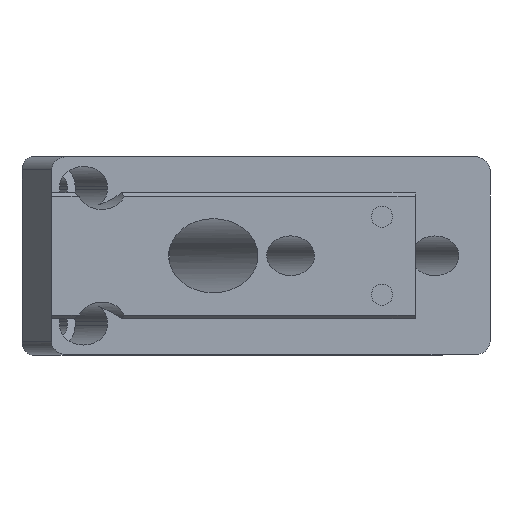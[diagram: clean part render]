
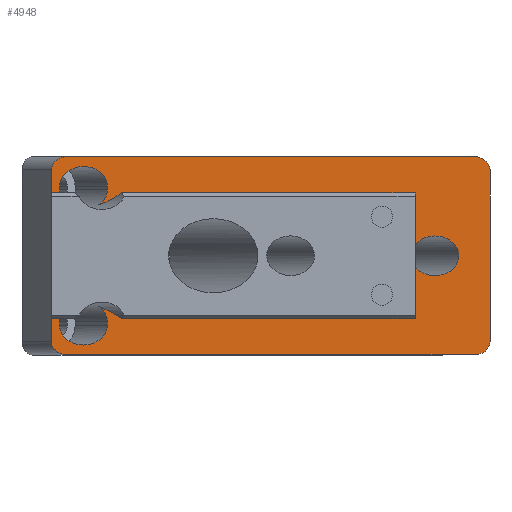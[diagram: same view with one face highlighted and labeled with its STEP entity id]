
A CAD part, top view. The second image highlights one B-rep face of the part: STEP entity #4948.
In plain terms, the highlighted planar face has unit normal (0, 0, 1).
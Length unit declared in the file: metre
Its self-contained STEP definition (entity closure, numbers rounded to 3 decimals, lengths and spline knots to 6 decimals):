
#208=ELLIPSE('',#5264,0.002412,0.002);
#209=ELLIPSE('',#5265,0.002412,0.002);
#210=ELLIPSE('',#5266,0.003619,0.003);
#211=ELLIPSE('',#5267,0.003619,0.003);
#212=ELLIPSE('',#5268,0.003619,0.003);
#213=ELLIPSE('',#5269,0.003619,0.003);
#214=ELLIPSE('',#5270,0.003619,0.003);
#215=ELLIPSE('',#5271,0.003619,0.003);
#216=ELLIPSE('',#5272,0.003619,0.003);
#217=ELLIPSE('',#5273,0.002412,0.002);
#218=ELLIPSE('',#5274,0.002412,0.002);
#414=ORIENTED_EDGE('',*,*,#1916,.T.);
#415=ORIENTED_EDGE('',*,*,#1917,.T.);
#416=ORIENTED_EDGE('',*,*,#1918,.T.);
#417=ORIENTED_EDGE('',*,*,#1919,.T.);
#418=ORIENTED_EDGE('',*,*,#1920,.F.);
#419=ORIENTED_EDGE('',*,*,#1921,.F.);
#420=ORIENTED_EDGE('',*,*,#1922,.F.);
#421=ORIENTED_EDGE('',*,*,#1923,.T.);
#422=ORIENTED_EDGE('',*,*,#1924,.F.);
#423=ORIENTED_EDGE('',*,*,#1925,.F.);
#424=ORIENTED_EDGE('',*,*,#1926,.F.);
#425=ORIENTED_EDGE('',*,*,#1927,.F.);
#426=ORIENTED_EDGE('',*,*,#1928,.F.);
#427=ORIENTED_EDGE('',*,*,#1929,.T.);
#428=ORIENTED_EDGE('',*,*,#1930,.F.);
#429=ORIENTED_EDGE('',*,*,#1931,.T.);
#430=ORIENTED_EDGE('',*,*,#1932,.F.);
#431=ORIENTED_EDGE('',*,*,#1933,.T.);
#432=ORIENTED_EDGE('',*,*,#1934,.F.);
#433=ORIENTED_EDGE('',*,*,#1935,.F.);
#434=ORIENTED_EDGE('',*,*,#1936,.F.);
#435=ORIENTED_EDGE('',*,*,#1937,.T.);
#436=ORIENTED_EDGE('',*,*,#1938,.F.);
#437=ORIENTED_EDGE('',*,*,#1939,.T.);
#438=ORIENTED_EDGE('',*,*,#1940,.F.);
#439=ORIENTED_EDGE('',*,*,#1941,.T.);
#1916=EDGE_CURVE('',#2667,#2668,#3147,.T.);
#1917=EDGE_CURVE('',#2668,#2669,#208,.F.);
#1918=EDGE_CURVE('',#2669,#2670,#3148,.T.);
#1919=EDGE_CURVE('',#2670,#2671,#209,.F.);
#1920=EDGE_CURVE('',#2672,#2671,#3149,.T.);
#1921=EDGE_CURVE('',#2673,#2672,#3150,.T.);
#1922=EDGE_CURVE('',#2674,#2673,#210,.F.);
#1923=EDGE_CURVE('',#2674,#2675,#3151,.T.);
#1924=EDGE_CURVE('',#2676,#2675,#211,.F.);
#1925=EDGE_CURVE('',#2677,#2676,#3152,.T.);
#1926=EDGE_CURVE('',#2678,#2677,#212,.F.);
#1927=EDGE_CURVE('',#2679,#2678,#3153,.T.);
#1928=EDGE_CURVE('',#2680,#2679,#3154,.T.);
#1929=EDGE_CURVE('',#2680,#2681,#213,.T.);
#1930=EDGE_CURVE('',#2682,#2681,#3155,.T.);
#1931=EDGE_CURVE('',#2682,#2683,#3156,.T.);
#1932=EDGE_CURVE('',#2684,#2683,#214,.F.);
#1933=EDGE_CURVE('',#2684,#2685,#3157,.T.);
#1934=EDGE_CURVE('',#2686,#2685,#215,.F.);
#1935=EDGE_CURVE('',#2687,#2686,#3158,.T.);
#1936=EDGE_CURVE('',#2688,#2687,#216,.F.);
#1937=EDGE_CURVE('',#2688,#2689,#3159,.T.);
#1938=EDGE_CURVE('',#2690,#2689,#3160,.T.);
#1939=EDGE_CURVE('',#2690,#2691,#217,.F.);
#1940=EDGE_CURVE('',#2692,#2691,#3161,.T.);
#1941=EDGE_CURVE('',#2692,#2667,#218,.F.);
#2667=VERTEX_POINT('',#6829);
#2668=VERTEX_POINT('',#6830);
#2669=VERTEX_POINT('',#6832);
#2670=VERTEX_POINT('',#6834);
#2671=VERTEX_POINT('',#6836);
#2672=VERTEX_POINT('',#6838);
#2673=VERTEX_POINT('',#6840);
#2674=VERTEX_POINT('',#6842);
#2675=VERTEX_POINT('',#6844);
#2676=VERTEX_POINT('',#6846);
#2677=VERTEX_POINT('',#6848);
#2678=VERTEX_POINT('',#6850);
#2679=VERTEX_POINT('',#6852);
#2680=VERTEX_POINT('',#6854);
#2681=VERTEX_POINT('',#6856);
#2682=VERTEX_POINT('',#6858);
#2683=VERTEX_POINT('',#6860);
#2684=VERTEX_POINT('',#6862);
#2685=VERTEX_POINT('',#6864);
#2686=VERTEX_POINT('',#6866);
#2687=VERTEX_POINT('',#6868);
#2688=VERTEX_POINT('',#6870);
#2689=VERTEX_POINT('',#6872);
#2690=VERTEX_POINT('',#6874);
#2691=VERTEX_POINT('',#6876);
#2692=VERTEX_POINT('',#6878);
#3147=LINE('',#6828,#3661);
#3148=LINE('',#6833,#3662);
#3149=LINE('',#6837,#3663);
#3150=LINE('',#6839,#3664);
#3151=LINE('',#6843,#3665);
#3152=LINE('',#6847,#3666);
#3153=LINE('',#6851,#3667);
#3154=LINE('',#6853,#3668);
#3155=LINE('',#6857,#3669);
#3156=LINE('',#6859,#3670);
#3157=LINE('',#6863,#3671);
#3158=LINE('',#6867,#3672);
#3159=LINE('',#6871,#3673);
#3160=LINE('',#6873,#3674);
#3161=LINE('',#6877,#3675);
#3661=VECTOR('',#5646,1.);
#3662=VECTOR('',#5649,1.);
#3663=VECTOR('',#5652,1.);
#3664=VECTOR('',#5653,1.);
#3665=VECTOR('',#5656,1.);
#3666=VECTOR('',#5659,1.);
#3667=VECTOR('',#5662,1.);
#3668=VECTOR('',#5663,1.);
#3669=VECTOR('',#5666,1.);
#3670=VECTOR('',#5667,1.);
#3671=VECTOR('',#5670,1.);
#3672=VECTOR('',#5673,1.);
#3673=VECTOR('',#5676,1.);
#3674=VECTOR('',#5677,1.);
#3675=VECTOR('',#5680,1.);
#4161=EDGE_LOOP('',(#414,#415,#416,#417,#418,#419,#420,#421,#422,#423,#424,
#425,#426,#427,#428,#429,#430,#431,#432,#433,#434,#435,#436,#437,#438,#439));
#4477=FACE_BOUND('',#4161,.T.);
#4781=PLANE('',#5263);
#4948=ADVANCED_FACE('',(#4477),#4781,.F.);
#5263=AXIS2_PLACEMENT_3D('',#6827,#5644,#5645);
#5264=AXIS2_PLACEMENT_3D('',#6831,#5647,#5648);
#5265=AXIS2_PLACEMENT_3D('',#6835,#5650,#5651);
#5266=AXIS2_PLACEMENT_3D('',#6841,#5654,#5655);
#5267=AXIS2_PLACEMENT_3D('',#6845,#5657,#5658);
#5268=AXIS2_PLACEMENT_3D('',#6849,#5660,#5661);
#5269=AXIS2_PLACEMENT_3D('',#6855,#5664,#5665);
#5270=AXIS2_PLACEMENT_3D('',#6861,#5668,#5669);
#5271=AXIS2_PLACEMENT_3D('',#6865,#5671,#5672);
#5272=AXIS2_PLACEMENT_3D('',#6869,#5674,#5675);
#5273=AXIS2_PLACEMENT_3D('',#6875,#5678,#5679);
#5274=AXIS2_PLACEMENT_3D('',#6879,#5681,#5682);
#5644=DIRECTION('',(0.,0.,-1.));
#5645=DIRECTION('',(-1.,0.,0.));
#5646=DIRECTION('',(0.,1.,0.));
#5647=DIRECTION('',(0.,0.,-1.));
#5648=DIRECTION('',(1.,0.,0.));
#5649=DIRECTION('',(-1.,0.,0.));
#5650=DIRECTION('',(0.,0.,-1.));
#5651=DIRECTION('',(-1.,0.,0.));
#5652=DIRECTION('',(0.,1.,0.));
#5653=DIRECTION('',(-1.,0.,0.));
#5654=DIRECTION('',(0.,0.,-1.));
#5655=DIRECTION('',(-1.,0.,0.));
#5656=DIRECTION('',(0.,1.,0.));
#5657=DIRECTION('',(0.,0.,-1.));
#5658=DIRECTION('',(-1.,0.,0.));
#5659=DIRECTION('',(0.,1.,0.));
#5660=DIRECTION('',(0.,0.,-1.));
#5661=DIRECTION('',(-1.,0.,0.));
#5662=DIRECTION('',(-1.,0.,0.));
#5663=DIRECTION('',(0.,1.,0.));
#5664=DIRECTION('',(0.,0.,-1.));
#5665=DIRECTION('',(-1.,0.,0.));
#5666=DIRECTION('',(0.,1.,0.));
#5667=DIRECTION('',(-1.,0.,0.));
#5668=DIRECTION('',(0.,0.,-1.));
#5669=DIRECTION('',(-1.,0.,0.));
#5670=DIRECTION('',(0.,-1.,0.));
#5671=DIRECTION('',(0.,0.,-1.));
#5672=DIRECTION('',(-1.,0.,0.));
#5673=DIRECTION('',(0.,-1.,0.));
#5674=DIRECTION('',(0.,0.,-1.));
#5675=DIRECTION('',(-1.,0.,0.));
#5676=DIRECTION('',(-1.,0.,0.));
#5677=DIRECTION('',(0.,1.,0.));
#5678=DIRECTION('',(0.,0.,-1.));
#5679=DIRECTION('',(1.,0.,0.));
#5680=DIRECTION('',(-1.,0.,0.));
#5681=DIRECTION('',(0.,0.,-1.));
#5682=DIRECTION('',(-1.,0.,0.));
#6827=CARTESIAN_POINT('',(0.033171,-0.015,0.));
#6828=CARTESIAN_POINT('',(0.066342,-0.015,0.));
#6829=CARTESIAN_POINT('',(0.066342,-0.013,0.));
#6830=CARTESIAN_POINT('',(0.066342,0.013,0.));
#6831=CARTESIAN_POINT('',(0.06393,0.013,0.));
#6832=CARTESIAN_POINT('',(0.06393,0.015,0.));
#6833=CARTESIAN_POINT('',(0.033171,0.015,0.));
#6834=CARTESIAN_POINT('',(0.002412,0.015,0.));
#6835=CARTESIAN_POINT('',(0.002412,0.013,0.));
#6836=CARTESIAN_POINT('',(0.,0.013,0.));
#6837=CARTESIAN_POINT('',(0.,-0.015,0.));
#6838=CARTESIAN_POINT('',(0.,0.007695,0.));
#6839=CARTESIAN_POINT('',(0.055,0.007695,0.));
#6840=CARTESIAN_POINT('',(0.002509,0.007695,0.));
#6841=CARTESIAN_POINT('',(0.004825,0.01,0.));
#6842=CARTESIAN_POINT('',(0.001206,0.01,0.));
#6843=CARTESIAN_POINT('',(0.001206,-0.015,0.));
#6844=CARTESIAN_POINT('',(0.001206,0.0105,0.));
#6845=CARTESIAN_POINT('',(0.004825,0.0105,0.));
#6846=CARTESIAN_POINT('',(0.008444,0.0105,0.));
#6847=CARTESIAN_POINT('',(0.008444,-0.015,0.));
#6848=CARTESIAN_POINT('',(0.008444,0.01,0.));
#6849=CARTESIAN_POINT('',(0.004825,0.01,0.));
#6850=CARTESIAN_POINT('',(0.007141,0.007695,0.));
#6851=CARTESIAN_POINT('',(0.055,0.007695,0.));
#6852=CARTESIAN_POINT('',(0.055,0.007695,0.));
#6853=CARTESIAN_POINT('',(0.055,0.,0.));
#6854=CARTESIAN_POINT('',(0.055,0.001654,0.));
#6855=CARTESIAN_POINT('',(0.058019,0.,0.));
#6856=CARTESIAN_POINT('',(0.055,-0.001654,0.));
#6857=CARTESIAN_POINT('',(0.055,0.,0.));
#6858=CARTESIAN_POINT('',(0.055,-0.007695,0.));
#6859=CARTESIAN_POINT('',(0.055,-0.007695,0.));
#6860=CARTESIAN_POINT('',(0.007141,-0.007695,0.));
#6861=CARTESIAN_POINT('',(0.004825,-0.01,0.));
#6862=CARTESIAN_POINT('',(0.008444,-0.01,0.));
#6863=CARTESIAN_POINT('',(0.008444,-0.015,0.));
#6864=CARTESIAN_POINT('',(0.008444,-0.0105,0.));
#6865=CARTESIAN_POINT('',(0.004825,-0.0105,0.));
#6866=CARTESIAN_POINT('',(0.001206,-0.0105,0.));
#6867=CARTESIAN_POINT('',(0.001206,-0.015,0.));
#6868=CARTESIAN_POINT('',(0.001206,-0.01,0.));
#6869=CARTESIAN_POINT('',(0.004825,-0.01,0.));
#6870=CARTESIAN_POINT('',(0.002509,-0.007695,0.));
#6871=CARTESIAN_POINT('',(0.055,-0.007695,0.));
#6872=CARTESIAN_POINT('',(0.,-0.007695,0.));
#6873=CARTESIAN_POINT('',(0.,-0.015,0.));
#6874=CARTESIAN_POINT('',(0.,-0.013,0.));
#6875=CARTESIAN_POINT('',(0.002412,-0.013,0.));
#6876=CARTESIAN_POINT('',(0.002412,-0.015,0.));
#6877=CARTESIAN_POINT('',(0.033171,-0.015,0.));
#6878=CARTESIAN_POINT('',(0.06393,-0.015,0.));
#6879=CARTESIAN_POINT('',(0.06393,-0.013,0.));
